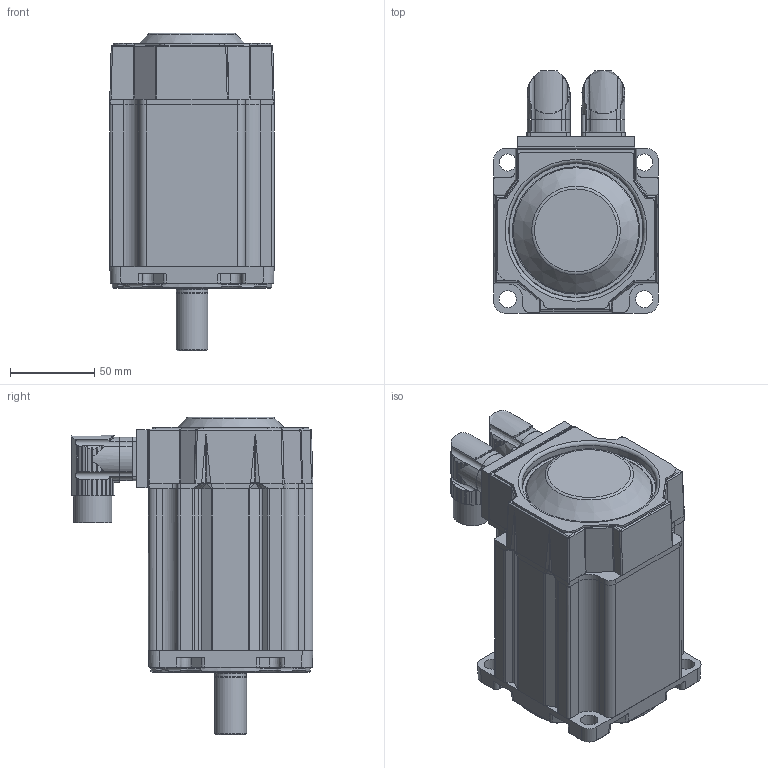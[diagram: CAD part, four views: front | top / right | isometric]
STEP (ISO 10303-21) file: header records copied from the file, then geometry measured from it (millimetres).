
FILE_DESCRIPTION((''),'2;1');
FILE_NAME('C:\CAD_work\Dummy_Modeling_Project_02-12-05\3D MODELS\MPP1002XXX_NPSN.stp','2005-12-20T17:04:19',('jevans'),(''),'Autodesk Inventor 10','Autodesk Inventor 10','');
FILE_SCHEMA(('AUTOMOTIVE_DESIGN { 1 0 10303 214 1 1 1 1 }'));
Length unit declared in the file: inch
Products named in the file (1): MPP100_MOTOR
Bounding box: 97.79 x 143.77 x 188.93 mm (x, y, z)
Volume: 1251632.4 mm3; surface area: 121948.7 mm2
Topology: 4 solids, 4 shells, 1043 faces, 2680 edges, 1680 vertices
Faces by surface type: bspline 341, cylinder 338, plane 258, cone 77, torus 21, sphere 8
Full cylindrical faces by diameter (mm): 1.016 x17, 1.956 x6, 2.362 x2, 18.644 x1, 18.999 x1, 19.05 x1, 19.66 x1, 19.939 x1, 19.99 x1, 22.86 x1, 25.4 x1, 40.005 x1, 51.511 x1, 51.994 x1, 52.019 x1, 52.261 x1, 55.143 x1, 60.325 x1, 80.366 x1
Entity records: 41628 total; most frequent: CARTESIAN_POINT 18595, ORIENTED_EDGE 5134, DIRECTION 4189, EDGE_CURVE 2567, VERTEX_POINT 1656, AXIS2_PLACEMENT_3D 1629, EDGE_LOOP 1193, FACE_OUTER_BOUND 1043
